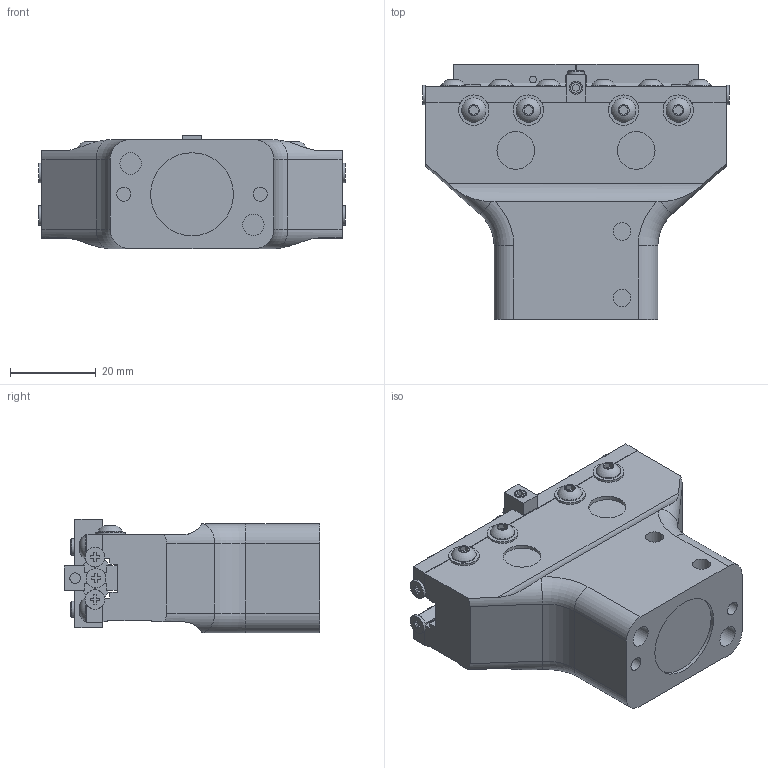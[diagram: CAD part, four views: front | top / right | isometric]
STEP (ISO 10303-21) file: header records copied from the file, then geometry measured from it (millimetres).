
FILE_DESCRIPTION(/* description */ ('STEP AP214'),/* implementation_level */ '2;1');
FILE_NAME(/* name */ 'RP-100 [HUB 0]',/* time_stamp */ '2024-09-17T07:58:52+02:00',/* author */ ('License CC BY-ND 4.0'),/* organization */ ('CADENAS'),/* preprocessor_version */ 'ST-DEVELOPER v19.3',/* originating_system */ 'PARTsolutions',/* authorisation */ ' ');
FILE_SCHEMA (('AUTOMOTIVE_DESIGN {1 0 10303 214 3 1 1}'));
Length unit declared in the file: millimetre
Products named in the file (3): RP-100 [HUB 0]; RP-100 (1) 0 0; RP-100 (2)
Assembly tree (3 placements, depth 2):
  RP-100 [HUB 0]
    RP-100 (1) 0 0
    RP-100 (2)  x2
Bounding box: 71.4 x 59.39 x 26.42 mm (x, y, z)
Volume: 63614.4 mm3; surface area: 17003.6 mm2
Topology: 3 solids, 3 shells, 516 faces, 1259 edges, 818 vertices
Faces by surface type: plane 423, cylinder 73, torus 18, cone 2
Full cylindrical faces by diameter (mm): 1.567 x2, 2 x4, 2.459 x10, 2.5 x1, 3 x5, 3.242 x2, 3.82 x2, 4.134 x2, 4.52 x8, 5 x2, 5.68 x14, 7.08 x4, 8.76 x4, 19.3 x1
Entity records: 12212 total; most frequent: CARTESIAN_POINT 2125, DIRECTION 2016, ORIENTED_EDGE 1952, EDGE_CURVE 976, LINE 798, VECTOR 798, VERTEX_POINT 674, AXIS2_PLACEMENT_3D 609
